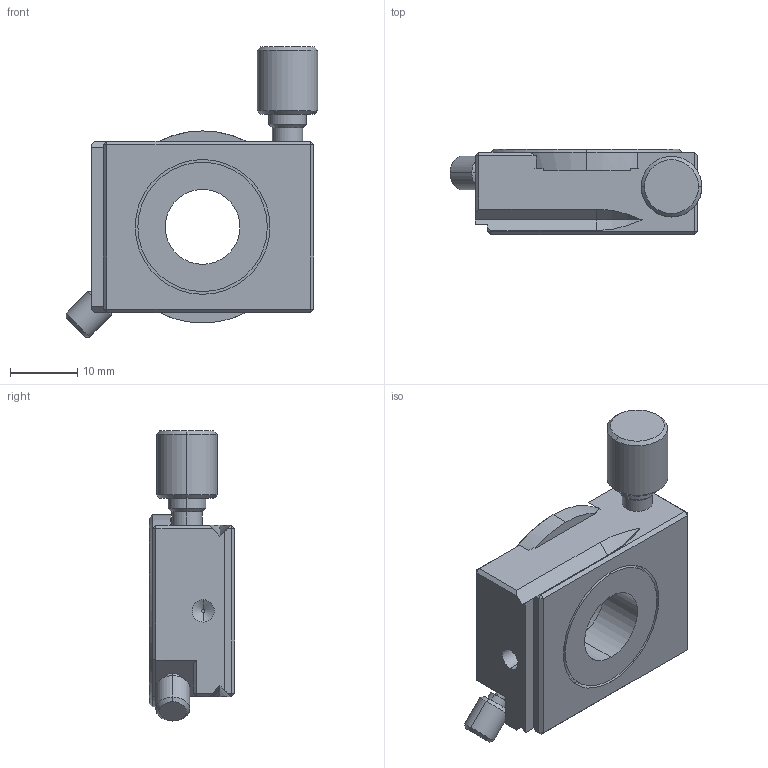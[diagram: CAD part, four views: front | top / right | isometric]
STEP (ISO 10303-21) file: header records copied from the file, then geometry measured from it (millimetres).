
FILE_DESCRIPTION (( 'STEP AP203' ), '1' );
FILE_NAME ('PT-SD202.STEP', '2022-09-04T01:47:01', ( '' ), ( '' ), 'SwSTEP 2.0', 'SolidWorks 2020', '' );
FILE_SCHEMA (( 'CONFIG_CONTROL_DESIGN' ));
Length unit declared in the file: millimetre
Products named in the file (1): PT-SD202
Bounding box: 37.34 x 12.7 x 43.04 mm (x, y, z)
Volume: 9339.9 mm3; surface area: 4636 mm2
Topology: 1 solids, 1 shells, 292 faces, 751 edges, 482 vertices
Faces by surface type: plane 153, bspline 81, cylinder 32, cone 26
Entity records: 11973 total; most frequent: CARTESIAN_POINT 5332, ORIENTED_EDGE 1490, DIRECTION 1083, EDGE_CURVE 745, VECTOR 491, LINE 491, VERTEX_POINT 482, EDGE_LOOP 323
